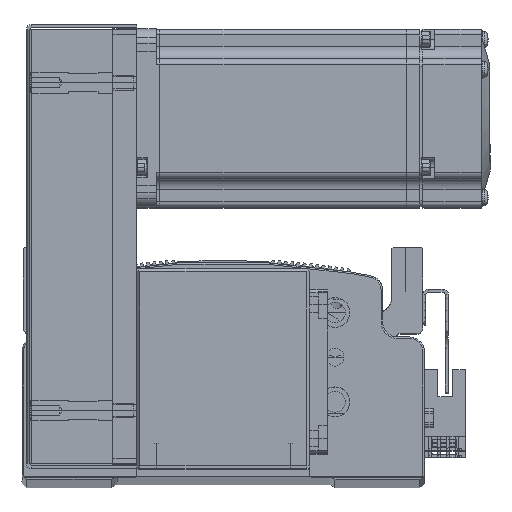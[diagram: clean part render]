
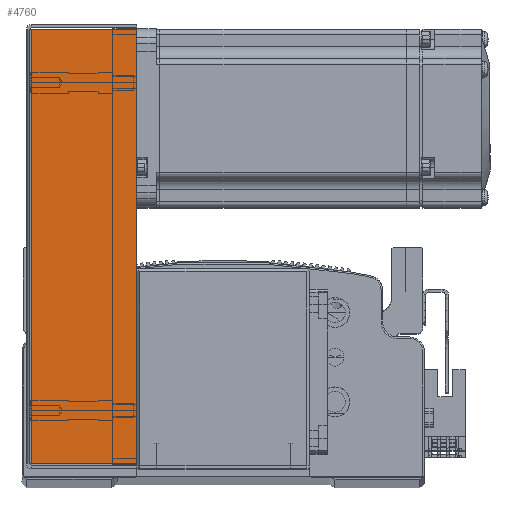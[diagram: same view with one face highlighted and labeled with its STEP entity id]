
A CAD part, top view. The second image highlights one B-rep face of the part: STEP entity #4760.
In plain terms, the highlighted planar face has unit normal (0, 0, 1).
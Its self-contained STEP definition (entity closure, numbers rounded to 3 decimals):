
#4760 = ADVANCED_FACE ( 'NONE', ( #27489 ), #37551, .F. ) ;
#23095 = CARTESIAN_POINT ( 'NONE',  ( 72.793, 36., 34.5 ) ) ;
#23108 = CARTESIAN_POINT ( 'NONE',  ( -72.793, 0.737, 34.5 ) ) ;
#23115 = CARTESIAN_POINT ( 'NONE',  ( 72.793, 0.737, 34.5 ) ) ;
#23124 = CARTESIAN_POINT ( 'NONE',  ( -72.793, 36., 34.5 ) ) ;
#27489 = FACE_OUTER_BOUND ( 'NONE', #76641, .T. ) ;
#37551 = PLANE ( 'NONE',  #58716 ) ;
#37604 = DIRECTION ( 'NONE',  ( -1., 0., 0. ) ) ;
#37618 = DIRECTION ( 'NONE',  ( 0., 0., -1. ) ) ;
#37682 = CARTESIAN_POINT ( 'NONE',  ( 0., 0., 34.5 ) ) ;
#40242 = ORIENTED_EDGE ( 'NONE', *, *, #67784, .F. ) ;
#40273 = ORIENTED_EDGE ( 'NONE', *, *, #67790, .T. ) ;
#40289 = ORIENTED_EDGE ( 'NONE', *, *, #67772, .F. ) ;
#40325 = ORIENTED_EDGE ( 'NONE', *, *, #67785, .T. ) ;
#58716 = AXIS2_PLACEMENT_3D ( 'NONE', #37682, #37618, #37604 ) ;
#67772 = EDGE_CURVE ( 'NONE', #79655, #79675, #73120, .T. ) ;
#67784 = EDGE_CURVE ( 'NONE', #79675, #79660, #73063, .T. ) ;
#67785 = EDGE_CURVE ( 'NONE', #79655, #79672, #73107, .T. ) ;
#67790 = EDGE_CURVE ( 'NONE', #79672, #79660, #73072, .T. ) ;
#73063 = LINE ( 'NONE', #74207, #73082 ) ;
#73072 = LINE ( 'NONE', #74201, #73092 ) ;
#73082 = VECTOR ( 'NONE', #74176, 1000. ) ;
#73090 = VECTOR ( 'NONE', #74156, 1000. ) ;
#73092 = VECTOR ( 'NONE', #74202, 1000. ) ;
#73107 = LINE ( 'NONE', #74181, #73090 ) ;
#73117 = VECTOR ( 'NONE', #74114, 1000. ) ;
#73120 = LINE ( 'NONE', #74112, #73117 ) ;
#74112 = CARTESIAN_POINT ( 'NONE',  ( -74.5, 0.737, 34.5 ) ) ;
#74114 = DIRECTION ( 'NONE',  ( -1., 0., 0. ) ) ;
#74156 = DIRECTION ( 'NONE',  ( 0., 1., 0. ) ) ;
#74176 = DIRECTION ( 'NONE',  ( 0., 1., 0. ) ) ;
#74181 = CARTESIAN_POINT ( 'NONE',  ( 72.793, 0., 34.5 ) ) ;
#74201 = CARTESIAN_POINT ( 'NONE',  ( 0., 36., 34.5 ) ) ;
#74202 = DIRECTION ( 'NONE',  ( -1., 0., 0. ) ) ;
#74207 = CARTESIAN_POINT ( 'NONE',  ( -72.793, 0., 34.5 ) ) ;
#76641 = EDGE_LOOP ( 'NONE', ( #40289, #40325, #40273, #40242 ) ) ;
#79655 = VERTEX_POINT ( 'NONE', #23115 ) ;
#79660 = VERTEX_POINT ( 'NONE', #23124 ) ;
#79672 = VERTEX_POINT ( 'NONE', #23095 ) ;
#79675 = VERTEX_POINT ( 'NONE', #23108 ) ;
